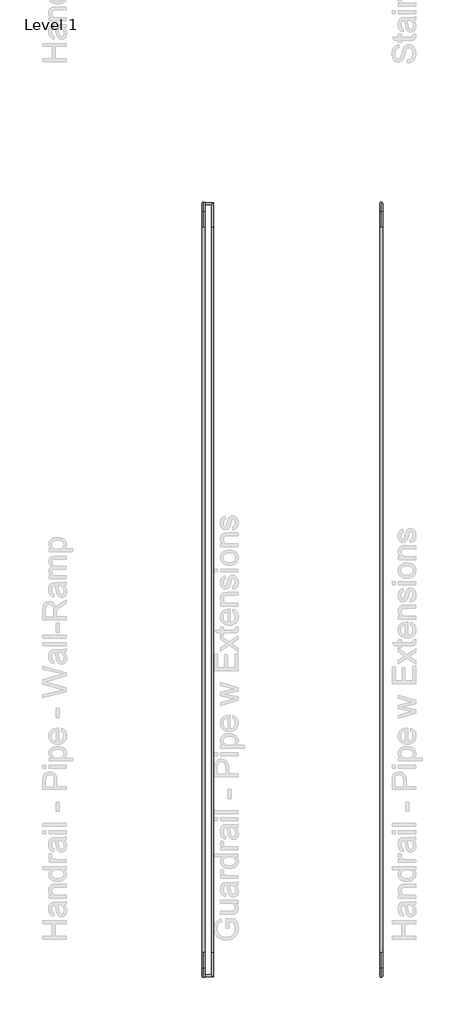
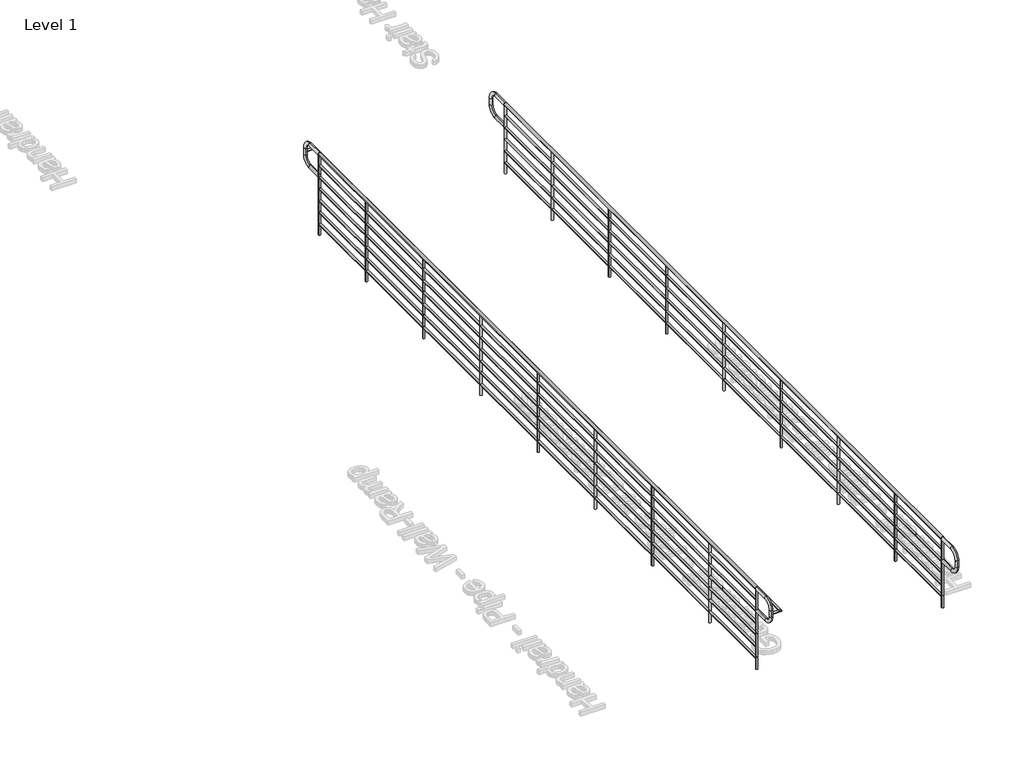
# One storey, part 5 of 14: 2 railings.
"""IFC4 building model written with IfcOpenShell, lengths in millimetres."""

from ifc_helpers import new_model, si_unit, point, frame, frame_2d, origin, origin_with_axes, place, context, project, spatial, circle_curve, ellipse_curve, trimmed, segment, composite_curve, outline, extrude, element, save
from ifc_brep_helpers import plane_surface, cylinder_surface, revolved_surface, advanced_brep

model = new_model("IFC4")

# Units and contexts
model_context = context("Model", 3, world=origin())
ifc_project = project(units=[si_unit("LENGTHUNIT", "METRE", prefix="MILLI")], contexts=[model_context])

# Site, building, storey
site = spatial("IfcSite", under=ifc_project)
building = spatial("IfcBuilding", under=site)
storey = spatial("IfcBuildingStorey", under=building, Name="Level 1", Elevation=0.0)

# Railings
placement = place(None, origin())
element("IfcRailing", 1, ObjectType="Guardrail - Pipe w Extensions", at=placement, inside=storey, context=model_context, shape_type="SolidModel", body=[
    advanced_brep(
    [(-3656.5978678, -5345.4143828, 901.7), (-3681.9978678, -5345.4143828, 901.7), (-3681.9978678, -14660.8643828, 901.7), (-3656.5978678, -14660.8643828, 901.7), (-3783.5978678, -5053.3143828, 901.7), (-3783.5978678, -5027.9143828, 901.7), (-3681.9978678, -5053.3143828, 901.7), (-3656.5978678, -5027.9143828, 901.7), (-3681.9978678, -14952.9643828, 901.7), (-3656.5978678, -14978.3643828, 901.7), (-3783.5978678, -14952.9643828, 901.7), (-3783.5978678, -14978.3643828, 901.7)],
    [
        (0, 1, circle_curve(frame((-3669.2978678, -5345.4143828, 901.7), z_axis=(0.0, -1.0, 0.0), x_axis=(1.0, 0.0, 0.0)), 12.7)),
        (1, 2),
        (2, 3, circle_curve(frame((-3669.2978678, -14660.8643828, 901.7), z_axis=(0.0, 1.0, 0.0), x_axis=(1.0, 0.0, 0.0)), 12.7)),
        (3, 0),
        (1, 0, circle_curve(frame((-3669.2978678, -5345.4143828, 901.7), z_axis=(0.0, -1.0, 0.0), x_axis=(1.0, 0.0, 0.0)), 12.7)),
        (3, 2, circle_curve(frame((-3669.2978678, -14660.8643828, 901.7), z_axis=(0.0, 1.0, 0.0), x_axis=(1.0, 0.0, 0.0)), 12.7)),
        (4, 5, circle_curve(frame((-3783.5978678, -5040.6143828, 901.7), z_axis=(-1.0, 0.0, 0.0), x_axis=(0.0, 1.0, 0.0)), 12.7)),
        (5, 4, circle_curve(frame((-3783.5978678, -5040.6143828, 901.7), z_axis=(-1.0, 0.0, 0.0), x_axis=(0.0, 1.0, 0.0)), 12.7)),
        (4, 6),
        (6, 7, ellipse_curve(frame((-3669.2978678, -5040.6143828, 901.7), z_axis=(-0.7071067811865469, 0.7071067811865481, 0.0), x_axis=(-0.7071067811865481, -0.7071067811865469, 0.0)), 17.9605122, 12.7)),
        (7, 5),
        (7, 6, ellipse_curve(frame((-3669.2978678, -5040.6143828, 901.7), z_axis=(-0.7071067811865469, 0.7071067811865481, 0.0), x_axis=(-0.7071067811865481, -0.7071067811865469, 0.0)), 17.9605122, 12.7)),
        (6, 1),
        (0, 7),
        (2, 8),
        (8, 9, ellipse_curve(frame((-3669.2978678, -14965.6643828, 901.7), z_axis=(0.7071067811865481, 0.7071067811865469, 0.0), x_axis=(-0.7071067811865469, 0.7071067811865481, 0.0)), 17.9605122, 12.7)),
        (9, 3),
        (9, 8, ellipse_curve(frame((-3669.2978678, -14965.6643828, 901.7), z_axis=(0.7071067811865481, 0.7071067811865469, 0.0), x_axis=(-0.7071067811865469, 0.7071067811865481, 0.0)), 17.9605122, 12.7)),
        (10, 11, circle_curve(frame((-3783.5978678, -14965.6643828, 901.7), z_axis=(-1.0, 0.0, 0.0), x_axis=(0.0, -1.0, 0.0)), 12.7)),
        (11, 10, circle_curve(frame((-3783.5978678, -14965.6643828, 901.7), z_axis=(-1.0, 0.0, 0.0), x_axis=(0.0, -1.0, 0.0)), 12.7)),
        (8, 10),
        (11, 9),
    ],
    [
        cylinder_surface(frame((-3669.2978678, -5345.4143828, 901.7), z_axis=(0.0, 1.0, 0.0), x_axis=(1.0, 0.0, 0.0)), 12.7),
        plane_surface(frame((-3783.5978678, -5040.6143828, 914.4), z_axis=(-1.0, 0.0, 0.0), x_axis=(0.0, 1.0, 0.0))),
        cylinder_surface(frame((-3783.5978678, -5040.6143828, 901.7), z_axis=(-1.0, 0.0, 0.0), x_axis=(0.0, 1.0, 0.0)), 12.7),
        cylinder_surface(frame((-3669.2978678, -5040.6143828, 901.7), z_axis=(0.0, 1.0, 0.0), x_axis=(1.0, 0.0, 0.0)), 12.7),
        cylinder_surface(frame((-3669.2978678, -14660.8643828, 901.7), z_axis=(0.0, 1.0, 0.0), x_axis=(1.0, 0.0, 0.0)), 12.7),
        plane_surface(frame((-3783.5978678, -14965.6643828, 914.4), z_axis=(-1.0, 0.0, 0.0), x_axis=(0.0, -1.0, 0.0))),
        cylinder_surface(frame((-3669.2978678, -14965.6643828, 901.7), z_axis=(1.0, 0.0, 0.0), x_axis=(0.0, -1.0, 0.0)), 12.7),
    ],
    [
        (0, [[1, 2, 3, 4]]),
        (0, [[5, -4, 6, -2]]),
        (1, [[7, 8]]),
        (2, [[-7, 9, 10, 11]]),
        (2, [[-8, -11, 12, -9]]),
        (3, [[-10, 13, -1, 14]]),
        (3, [[-12, -14, -5, -13]]),
        (4, [[-3, 15, 16, 17]]),
        (4, [[-6, -17, 18, -15]]),
        (5, [[19, 20]]),
        (6, [[-16, 21, -20, 22]]),
        (6, [[-18, -22, -19, -21]]),
    ],
),
    extrude(outline(composite_curve([segment(trimmed(circle_curve(frame_2d((1047.75, -3783.5978678)), 19.05), [point((1047.75, -3802.6478678))], [point((1047.75, -3764.5478678))], False, "CARTESIAN"), True, "CONTINUOUS"), segment(trimmed(circle_curve(frame_2d((1047.75, -3783.5978678)), 19.05), [point((1047.75, -3764.5478678))], [point((1047.75, -3802.6478678))], False, "CARTESIAN"), True, "CONTINUOUS")], self_intersect=False)), frame((0.0, -14660.8643828, 0.0), z_axis=(0.0, 1.0, 0.0), x_axis=(0.0, 0.0, 1.0)), (0.0, 0.0, 1.0), 9315.45),
    extrude(outline(composite_curve([segment(trimmed(circle_curve(frame_2d((901.7, -3783.5978678)), 12.7), [point((901.7, -3770.8978678))], [point((901.7, -3796.2978678))], False, "CARTESIAN"), True, "CONTINUOUS"), segment(trimmed(circle_curve(frame_2d((901.7, -3783.5978678)), 12.7), [point((901.7, -3796.2978678))], [point((901.7, -3770.8978678))], False, "CARTESIAN"), True, "CONTINUOUS")], self_intersect=False)), frame((0.0, -14660.8643828, 0.0), z_axis=(0.0, 1.0, 0.0), x_axis=(0.0, 0.0, 1.0)), (0.0, 0.0, 1.0), 9315.45),
    extrude(outline(composite_curve([segment(trimmed(circle_curve(frame_2d((749.3, -3783.5978678)), 12.7), [point((749.3, -3770.8978678))], [point((749.3, -3796.2978678))], False, "CARTESIAN"), True, "CONTINUOUS"), segment(trimmed(circle_curve(frame_2d((749.3, -3783.5978678)), 12.7), [point((749.3, -3796.2978678))], [point((749.3, -3770.8978678))], False, "CARTESIAN"), True, "CONTINUOUS")], self_intersect=False)), frame((0.0, -14660.8643828, 0.0), z_axis=(0.0, 1.0, 0.0), x_axis=(0.0, 0.0, 1.0)), (0.0, 0.0, 1.0), 9315.45),
    extrude(outline(composite_curve([segment(trimmed(circle_curve(frame_2d((596.9, -3783.5978678)), 12.7), [point((596.9, -3770.8978678))], [point((596.9, -3796.2978678))], False, "CARTESIAN"), True, "CONTINUOUS"), segment(trimmed(circle_curve(frame_2d((596.9, -3783.5978678)), 12.7), [point((596.9, -3796.2978678))], [point((596.9, -3770.8978678))], False, "CARTESIAN"), True, "CONTINUOUS")], self_intersect=False)), frame((0.0, -14660.8643828, 0.0), z_axis=(0.0, 1.0, 0.0), x_axis=(0.0, 0.0, 1.0)), (0.0, 0.0, 1.0), 9315.45),
    extrude(outline(composite_curve([segment(trimmed(circle_curve(frame_2d((444.5, -3783.5978678)), 12.7), [point((444.5, -3770.8978678))], [point((444.5, -3796.2978678))], False, "CARTESIAN"), True, "CONTINUOUS"), segment(trimmed(circle_curve(frame_2d((444.5, -3783.5978678)), 12.7), [point((444.5, -3796.2978678))], [point((444.5, -3770.8978678))], False, "CARTESIAN"), True, "CONTINUOUS")], self_intersect=False)), frame((0.0, -14660.8643828, 0.0), z_axis=(0.0, 1.0, 0.0), x_axis=(0.0, 0.0, 1.0)), (0.0, 0.0, 1.0), 9315.45),
    extrude(outline(composite_curve([segment(trimmed(circle_curve(frame_2d((292.1, -3783.5978678)), 12.7), [point((292.1, -3770.8978678))], [point((292.1, -3796.2978678))], False, "CARTESIAN"), True, "CONTINUOUS"), segment(trimmed(circle_curve(frame_2d((292.1, -3783.5978678)), 12.7), [point((292.1, -3796.2978678))], [point((292.1, -3770.8978678))], False, "CARTESIAN"), True, "CONTINUOUS")], self_intersect=False)), frame((0.0, -14660.8643828, 0.0), z_axis=(0.0, 1.0, 0.0), x_axis=(0.0, 0.0, 1.0)), (0.0, 0.0, 1.0), 9315.45),
    extrude(outline(composite_curve([segment(trimmed(circle_curve(frame_2d((139.7, -3783.5978678)), 12.7), [point((139.7, -3770.8978678))], [point((139.7, -3796.2978678))], False, "CARTESIAN"), True, "CONTINUOUS"), segment(trimmed(circle_curve(frame_2d((139.7, -3783.5978678)), 12.7), [point((139.7, -3796.2978678))], [point((139.7, -3770.8978678))], False, "CARTESIAN"), True, "CONTINUOUS")], self_intersect=False)), frame((0.0, -14660.8643828, 0.0), z_axis=(0.0, 1.0, 0.0), x_axis=(0.0, 0.0, 1.0)), (0.0, 0.0, 1.0), 9315.45),
    extrude(outline(composite_curve([segment(trimmed(circle_curve(frame_2d((-3783.5978678, -13660.7393828)), 12.7), [point((-3770.8978678, -13660.7393828))], [point((-3796.2978678, -13660.7393828))], False, "CARTESIAN"), True, "CONTINUOUS"), segment(trimmed(circle_curve(frame_2d((-3783.5978678, -13660.7393828)), 12.7), [point((-3796.2978678, -13660.7393828))], [point((-3770.8978678, -13660.7393828))], False, "CARTESIAN"), True, "CONTINUOUS")], self_intersect=False)), origin_with_axes(), (0.0, 0.0, 1.0), 1028.7),
    extrude(outline(composite_curve([segment(trimmed(circle_curve(frame_2d((-3783.5978678, -12441.5393828)), 12.7), [point((-3770.8978678, -12441.5393828))], [point((-3796.2978678, -12441.5393828))], False, "CARTESIAN"), True, "CONTINUOUS"), segment(trimmed(circle_curve(frame_2d((-3783.5978678, -12441.5393828)), 12.7), [point((-3796.2978678, -12441.5393828))], [point((-3770.8978678, -12441.5393828))], False, "CARTESIAN"), True, "CONTINUOUS")], self_intersect=False)), origin_with_axes(), (0.0, 0.0, 1.0), 1028.7),
    extrude(outline(composite_curve([segment(trimmed(circle_curve(frame_2d((-3783.5978678, -11222.3393828)), 12.7), [point((-3770.8978678, -11222.3393828))], [point((-3796.2978678, -11222.3393828))], False, "CARTESIAN"), True, "CONTINUOUS"), segment(trimmed(circle_curve(frame_2d((-3783.5978678, -11222.3393828)), 12.7), [point((-3796.2978678, -11222.3393828))], [point((-3770.8978678, -11222.3393828))], False, "CARTESIAN"), True, "CONTINUOUS")], self_intersect=False)), origin_with_axes(), (0.0, 0.0, 1.0), 1028.7),
    extrude(outline(composite_curve([segment(trimmed(circle_curve(frame_2d((-3783.5978678, -10003.1393828)), 12.7), [point((-3770.8978678, -10003.1393828))], [point((-3796.2978678, -10003.1393828))], False, "CARTESIAN"), True, "CONTINUOUS"), segment(trimmed(circle_curve(frame_2d((-3783.5978678, -10003.1393828)), 12.7), [point((-3796.2978678, -10003.1393828))], [point((-3770.8978678, -10003.1393828))], False, "CARTESIAN"), True, "CONTINUOUS")], self_intersect=False)), origin_with_axes(), (0.0, 0.0, 1.0), 1028.7),
    extrude(outline(composite_curve([segment(trimmed(circle_curve(frame_2d((-3783.5978678, -8783.9393828)), 12.7), [point((-3770.8978678, -8783.9393828))], [point((-3796.2978678, -8783.9393828))], False, "CARTESIAN"), True, "CONTINUOUS"), segment(trimmed(circle_curve(frame_2d((-3783.5978678, -8783.9393828)), 12.7), [point((-3796.2978678, -8783.9393828))], [point((-3770.8978678, -8783.9393828))], False, "CARTESIAN"), True, "CONTINUOUS")], self_intersect=False)), origin_with_axes(), (0.0, 0.0, 1.0), 1028.7),
    extrude(outline(composite_curve([segment(trimmed(circle_curve(frame_2d((-3783.5978678, -7564.7393828)), 12.7), [point((-3770.8978678, -7564.7393828))], [point((-3796.2978678, -7564.7393828))], False, "CARTESIAN"), True, "CONTINUOUS"), segment(trimmed(circle_curve(frame_2d((-3783.5978678, -7564.7393828)), 12.7), [point((-3796.2978678, -7564.7393828))], [point((-3770.8978678, -7564.7393828))], False, "CARTESIAN"), True, "CONTINUOUS")], self_intersect=False)), origin_with_axes(), (0.0, 0.0, 1.0), 1028.7),
    extrude(outline(composite_curve([segment(trimmed(circle_curve(frame_2d((-3783.5978678, -6345.5393828)), 12.7), [point((-3770.8978678, -6345.5393828))], [point((-3796.2978678, -6345.5393828))], False, "CARTESIAN"), True, "CONTINUOUS"), segment(trimmed(circle_curve(frame_2d((-3783.5978678, -6345.5393828)), 12.7), [point((-3796.2978678, -6345.5393828))], [point((-3770.8978678, -6345.5393828))], False, "CARTESIAN"), True, "CONTINUOUS")], self_intersect=False)), origin_with_axes(), (0.0, 0.0, 1.0), 1028.7),
    advanced_brep(
    [(-3783.5978678, -14673.5643828, 781.05), (-3783.5978678, -14673.5643828, 742.95), (-3783.5978678, -14864.0643828, 781.05), (-3783.5978678, -14864.0643828, 742.95), (-3783.5978678, -14984.7143828, 863.6), (-3783.5978678, -14946.6143828, 863.6), (-3783.5978678, -14946.6143828, 946.15), (-3783.5978678, -14984.7143828, 946.15), (-3783.5978678, -14864.0643828, 1066.8), (-3783.5978678, -14864.0643828, 1028.7), (-3783.5978678, -14660.8643828, 1028.7), (-3783.5978678, -14660.8643828, 1066.8)],
    [
        (0, 1, circle_curve(frame((-3783.5978678, -14673.5643828, 762.0), z_axis=(0.0, 1.0, 0.0), x_axis=(0.0, 0.0, -1.0)), 19.05)),
        (1, 0, circle_curve(frame((-3783.5978678, -14673.5643828, 762.0), z_axis=(0.0, 1.0, 0.0), x_axis=(0.0, 0.0, -1.0)), 19.05)),
        (0, 2),
        (2, 3, circle_curve(frame((-3783.5978678, -14864.0643828, 762.0), z_axis=(0.0, 1.0, 0.0), x_axis=(0.0, 0.0, -1.0)), 19.05)),
        (3, 1),
        (3, 2, circle_curve(frame((-3783.5978678, -14864.0643828, 762.0), z_axis=(0.0, 1.0, 0.0), x_axis=(0.0, 0.0, -1.0)), 19.05)),
        (4, 3, circle_curve(frame((-3783.5978678, -14864.0643828, 863.6), z_axis=(1.0, 0.0, 0.0), x_axis=(0.0, 0.0, -1.0)), 120.65)),
        (2, 5, circle_curve(frame((-3783.5978678, -14864.0643828, 863.6), z_axis=(-1.0, 0.0, 0.0), x_axis=(0.0, 0.0, -1.0)), 82.55)),
        (5, 4, circle_curve(frame((-3783.5978678, -14965.6643828, 863.6), z_axis=(0.0, 0.0, -1.0), x_axis=(0.0, -1.0, 0.0)), 19.05)),
        (4, 5, circle_curve(frame((-3783.5978678, -14965.6643828, 863.6), z_axis=(0.0, 0.0, -1.0), x_axis=(0.0, -1.0, 0.0)), 19.05)),
        (5, 6),
        (6, 7, circle_curve(frame((-3783.5978678, -14965.6643828, 946.15), z_axis=(0.0, 0.0, -1.0), x_axis=(0.0, -1.0, 0.0)), 19.05)),
        (7, 4),
        (7, 6, circle_curve(frame((-3783.5978678, -14965.6643828, 946.15), z_axis=(0.0, 0.0, -1.0), x_axis=(0.0, -1.0, 0.0)), 19.05)),
        (8, 7, circle_curve(frame((-3783.5978678, -14864.0643828, 946.15), z_axis=(1.0, 0.0, 0.0), x_axis=(0.0, -1.0, 0.0)), 120.65)),
        (6, 9, circle_curve(frame((-3783.5978678, -14864.0643828, 946.15), z_axis=(-1.0, 0.0, 0.0), x_axis=(0.0, -1.0, 0.0)), 82.55)),
        (9, 8, circle_curve(frame((-3783.5978678, -14864.0643828, 1047.75), z_axis=(0.0, -1.0, 0.0), x_axis=(0.0, 0.0, 1.0)), 19.05)),
        (8, 9, circle_curve(frame((-3783.5978678, -14864.0643828, 1047.75), z_axis=(0.0, -1.0, 0.0), x_axis=(0.0, 0.0, 1.0)), 19.05)),
        (10, 11, circle_curve(frame((-3783.5978678, -14660.8643828, 1047.75), z_axis=(0.0, 1.0, 0.0), x_axis=(0.0, 0.0, 1.0)), 19.05)),
        (11, 10, circle_curve(frame((-3783.5978678, -14660.8643828, 1047.75), z_axis=(0.0, 1.0, 0.0), x_axis=(0.0, 0.0, 1.0)), 19.05)),
        (9, 10),
        (11, 8),
    ],
    [
        plane_surface(frame((-3802.6478678, -14673.5643828, 762.0), z_axis=(0.0, 1.0, 0.0), x_axis=(0.0, 0.0, -1.0))),
        cylinder_surface(frame((-3783.5978678, -14673.5643828, 762.0), z_axis=(0.0, 1.0, 0.0), x_axis=(0.0, 0.0, -1.0)), 19.05),
        revolved_surface(trimmed(ellipse_curve(frame((-3783.5978678, -14864.0643828, 762.0), z_axis=(0.0, 1.0, 0.0), x_axis=(0.0, 0.0, -1.0)), 19.05, 19.05), [point((-3783.5978678, -14864.0643828, 781.05))], [point((-3783.5978678, -14864.0643828, 742.95))], True, "CARTESIAN"), (-3783.5978678, -14864.0643828, 863.6), (-1.0, 0.0, 0.0)),
        revolved_surface(trimmed(ellipse_curve(frame((-3783.5978678, -14864.0643828, 762.0), z_axis=(0.0, 1.0, 0.0), x_axis=(0.0, 0.0, -1.0)), 19.05, 19.05), [point((-3783.5978678, -14864.0643828, 742.95))], [point((-3783.5978678, -14864.0643828, 781.05))], True, "CARTESIAN"), (-3783.5978678, -14864.0643828, 863.6), (-1.0, 0.0, 0.0)),
        cylinder_surface(frame((-3783.5978678, -14965.6643828, 863.6), z_axis=(0.0, 0.0, -1.0), x_axis=(0.0, -1.0, 0.0)), 19.05),
        revolved_surface(trimmed(ellipse_curve(frame((-3783.5978678, -14965.6643828, 946.15), z_axis=(0.0, 0.0, -1.0), x_axis=(0.0, -1.0, 0.0)), 19.05, 19.05), [point((-3783.5978678, -14946.6143828, 946.15))], [point((-3783.5978678, -14984.7143828, 946.15))], True, "CARTESIAN"), (-3783.5978678, -14864.0643828, 946.15), (-1.0, 0.0, 0.0)),
        revolved_surface(trimmed(ellipse_curve(frame((-3783.5978678, -14965.6643828, 946.15), z_axis=(0.0, 0.0, -1.0), x_axis=(0.0, -1.0, 0.0)), 19.05, 19.05), [point((-3783.5978678, -14984.7143828, 946.15))], [point((-3783.5978678, -14946.6143828, 946.15))], True, "CARTESIAN"), (-3783.5978678, -14864.0643828, 946.15), (-1.0, 0.0, 0.0)),
        plane_surface(frame((-3802.6478678, -14660.8643828, 1047.75), z_axis=(0.0, 1.0, 0.0), x_axis=(0.0, 0.0, 1.0))),
        cylinder_surface(frame((-3783.5978678, -14864.0643828, 1047.75), z_axis=(0.0, -1.0, 0.0), x_axis=(0.0, 0.0, 1.0)), 19.05),
    ],
    [
        (0, [[1, 2]]),
        (1, [[-1, 3, 4, 5]]),
        (1, [[-2, -5, 6, -3]]),
        (2, [[7, -4, 8, 9]]),
        (3, [[-8, -6, -7, 10]]),
        (4, [[-9, 11, 12, 13]]),
        (4, [[-10, -13, 14, -11]]),
        (5, [[15, -12, 16, 17]]),
        (6, [[-16, -14, -15, 18]]),
        (7, [[19, 20]]),
        (8, [[-17, 21, -20, 22]]),
        (8, [[-18, -22, -19, -21]]),
    ],
),
    extrude(outline(composite_curve([segment(trimmed(circle_curve(frame_2d((-3783.5978678, -14660.8643828)), 12.7), [point((-3796.2978678, -14660.8643828))], [point((-3770.8978678, -14660.8643828))], False, "CARTESIAN"), True, "CONTINUOUS"), segment(trimmed(circle_curve(frame_2d((-3783.5978678, -14660.8643828)), 12.7), [point((-3770.8978678, -14660.8643828))], [point((-3796.2978678, -14660.8643828))], False, "CARTESIAN"), True, "CONTINUOUS")], self_intersect=False)), origin_with_axes(), (0.0, 0.0, 1.0), 1028.7),
    advanced_brep(
    [(-3783.5978678, -5345.4143828, 1028.7), (-3783.5978678, -5345.4143828, 1066.8), (-3783.5978678, -5142.2143828, 1028.7), (-3783.5978678, -5142.2143828, 1066.8), (-3783.5978678, -5021.5643828, 946.15), (-3783.5978678, -5059.6643828, 946.15), (-3783.5978678, -5059.6643828, 863.6), (-3783.5978678, -5021.5643828, 863.6), (-3783.5978678, -5142.2143828, 742.95), (-3783.5978678, -5142.2143828, 781.05), (-3783.5978678, -5332.7143828, 781.05), (-3783.5978678, -5332.7143828, 742.95)],
    [
        (0, 1, circle_curve(frame((-3783.5978678, -5345.4143828, 1047.75), z_axis=(0.0, -1.0, 0.0), x_axis=(0.0, 0.0, 1.0)), 19.05)),
        (1, 0, circle_curve(frame((-3783.5978678, -5345.4143828, 1047.75), z_axis=(0.0, -1.0, 0.0), x_axis=(0.0, 0.0, 1.0)), 19.05)),
        (0, 2),
        (2, 3, circle_curve(frame((-3783.5978678, -5142.2143828, 1047.75), z_axis=(0.0, -1.0, 0.0), x_axis=(0.0, 0.0, 1.0)), 19.05)),
        (3, 1),
        (3, 2, circle_curve(frame((-3783.5978678, -5142.2143828, 1047.75), z_axis=(0.0, -1.0, 0.0), x_axis=(0.0, 0.0, 1.0)), 19.05)),
        (4, 3, circle_curve(frame((-3783.5978678, -5142.2143828, 946.15), z_axis=(1.0, 0.0, 0.0), x_axis=(0.0, 0.0, 1.0)), 120.65)),
        (2, 5, circle_curve(frame((-3783.5978678, -5142.2143828, 946.15), z_axis=(-1.0, 0.0, 0.0), x_axis=(0.0, 0.0, 1.0)), 82.55)),
        (5, 4, circle_curve(frame((-3783.5978678, -5040.6143828, 946.15), z_axis=(0.0, 0.0, 1.0), x_axis=(0.0, 1.0, 0.0)), 19.05)),
        (4, 5, circle_curve(frame((-3783.5978678, -5040.6143828, 946.15), z_axis=(0.0, 0.0, 1.0), x_axis=(0.0, 1.0, 0.0)), 19.05)),
        (5, 6),
        (6, 7, circle_curve(frame((-3783.5978678, -5040.6143828, 863.6), z_axis=(0.0, 0.0, 1.0), x_axis=(0.0, 1.0, 0.0)), 19.05)),
        (7, 4),
        (7, 6, circle_curve(frame((-3783.5978678, -5040.6143828, 863.6), z_axis=(0.0, 0.0, 1.0), x_axis=(0.0, 1.0, 0.0)), 19.05)),
        (8, 7, circle_curve(frame((-3783.5978678, -5142.2143828, 863.6), z_axis=(1.0, 0.0, 0.0), x_axis=(0.0, 1.0, 0.0)), 120.65)),
        (6, 9, circle_curve(frame((-3783.5978678, -5142.2143828, 863.6), z_axis=(-1.0, 0.0, 0.0), x_axis=(0.0, 1.0, 0.0)), 82.55)),
        (9, 8, circle_curve(frame((-3783.5978678, -5142.2143828, 762.0), z_axis=(0.0, 1.0, 0.0), x_axis=(0.0, 0.0, -1.0)), 19.05)),
        (8, 9, circle_curve(frame((-3783.5978678, -5142.2143828, 762.0), z_axis=(0.0, 1.0, 0.0), x_axis=(0.0, 0.0, -1.0)), 19.05)),
        (10, 11, circle_curve(frame((-3783.5978678, -5332.7143828, 762.0), z_axis=(0.0, -1.0, 0.0), x_axis=(0.0, 0.0, -1.0)), 19.05)),
        (11, 10, circle_curve(frame((-3783.5978678, -5332.7143828, 762.0), z_axis=(0.0, -1.0, 0.0), x_axis=(0.0, 0.0, -1.0)), 19.05)),
        (9, 10),
        (11, 8),
    ],
    [
        plane_surface(frame((-3802.6478678, -5345.4143828, 1047.75), z_axis=(0.0, -1.0, 0.0), x_axis=(0.0, 0.0, 1.0))),
        cylinder_surface(frame((-3783.5978678, -5345.4143828, 1047.75), z_axis=(0.0, -1.0, 0.0), x_axis=(0.0, 0.0, 1.0)), 19.05),
        revolved_surface(trimmed(ellipse_curve(frame((-3783.5978678, -5142.2143828, 1047.75), z_axis=(0.0, -1.0, 0.0), x_axis=(0.0, 0.0, 1.0)), 19.05, 19.05), [point((-3783.5978678, -5142.2143828, 1028.7))], [point((-3783.5978678, -5142.2143828, 1066.8))], True, "CARTESIAN"), (-3783.5978678, -5142.2143828, 946.15), (-1.0, 0.0, 0.0)),
        revolved_surface(trimmed(ellipse_curve(frame((-3783.5978678, -5142.2143828, 1047.75), z_axis=(0.0, -1.0, 0.0), x_axis=(0.0, 0.0, 1.0)), 19.05, 19.05), [point((-3783.5978678, -5142.2143828, 1066.8))], [point((-3783.5978678, -5142.2143828, 1028.7))], True, "CARTESIAN"), (-3783.5978678, -5142.2143828, 946.15), (-1.0, 0.0, 0.0)),
        cylinder_surface(frame((-3783.5978678, -5040.6143828, 946.15), z_axis=(0.0, 0.0, 1.0), x_axis=(0.0, 1.0, 0.0)), 19.05),
        revolved_surface(trimmed(ellipse_curve(frame((-3783.5978678, -5040.6143828, 863.6), z_axis=(0.0, 0.0, 1.0), x_axis=(0.0, 1.0, 0.0)), 19.05, 19.05), [point((-3783.5978678, -5059.6643828, 863.6))], [point((-3783.5978678, -5021.5643828, 863.6))], True, "CARTESIAN"), (-3783.5978678, -5142.2143828, 863.6), (-1.0, 0.0, 0.0)),
        revolved_surface(trimmed(ellipse_curve(frame((-3783.5978678, -5040.6143828, 863.6), z_axis=(0.0, 0.0, 1.0), x_axis=(0.0, 1.0, 0.0)), 19.05, 19.05), [point((-3783.5978678, -5021.5643828, 863.6))], [point((-3783.5978678, -5059.6643828, 863.6))], True, "CARTESIAN"), (-3783.5978678, -5142.2143828, 863.6), (-1.0, 0.0, 0.0)),
        plane_surface(frame((-3802.6478678, -5332.7143828, 762.0), z_axis=(0.0, -1.0, 0.0), x_axis=(0.0, 0.0, -1.0))),
        cylinder_surface(frame((-3783.5978678, -5142.2143828, 762.0), z_axis=(0.0, 1.0, 0.0), x_axis=(0.0, 0.0, -1.0)), 19.05),
    ],
    [
        (0, [[1, 2]]),
        (1, [[-1, 3, 4, 5]]),
        (1, [[-2, -5, 6, -3]]),
        (2, [[7, -4, 8, 9]]),
        (3, [[-8, -6, -7, 10]]),
        (4, [[-9, 11, 12, 13]]),
        (4, [[-10, -13, 14, -11]]),
        (5, [[15, -12, 16, 17]]),
        (6, [[-16, -14, -15, 18]]),
        (7, [[19, 20]]),
        (8, [[-17, 21, -20, 22]]),
        (8, [[-18, -22, -19, -21]]),
    ],
),
    extrude(outline(composite_curve([segment(trimmed(circle_curve(frame_2d((-3783.5978678, -5345.4143828)), 12.7), [point((-3796.2978678, -5345.4143828))], [point((-3770.8978678, -5345.4143828))], False, "CARTESIAN"), True, "CONTINUOUS"), segment(trimmed(circle_curve(frame_2d((-3783.5978678, -5345.4143828)), 12.7), [point((-3770.8978678, -5345.4143828))], [point((-3796.2978678, -5345.4143828))], False, "CARTESIAN"), True, "CONTINUOUS")], self_intersect=False)), origin_with_axes(), (0.0, 0.0, 1.0), 1028.7),
])
element("IfcRailing", 2, ObjectType="Handrail - Pipe w Extensions", at=placement, inside=storey, context=model_context, shape_type="SolidModel", body=[
    extrude(outline(composite_curve([segment(trimmed(circle_curve(frame_2d((895.35, -1497.5978678)), 19.05), [point((895.35, -1516.6478678))], [point((895.35, -1478.5478678))], False, "CARTESIAN"), True, "CONTINUOUS"), segment(trimmed(circle_curve(frame_2d((895.35, -1497.5978678)), 19.05), [point((895.35, -1478.5478678))], [point((895.35, -1516.6478678))], False, "CARTESIAN"), True, "CONTINUOUS")], self_intersect=False)), frame((0.0, -14660.8643828, 0.0), z_axis=(0.0, 1.0, 0.0), x_axis=(0.0, 0.0, 1.0)), (0.0, 0.0, 1.0), 9315.45),
    extrude(outline(composite_curve([segment(trimmed(circle_curve(frame_2d((749.3, -1497.5978678)), 12.7), [point((749.3, -1484.8978678))], [point((749.3, -1510.2978678))], False, "CARTESIAN"), True, "CONTINUOUS"), segment(trimmed(circle_curve(frame_2d((749.3, -1497.5978678)), 12.7), [point((749.3, -1510.2978678))], [point((749.3, -1484.8978678))], False, "CARTESIAN"), True, "CONTINUOUS")], self_intersect=False)), frame((0.0, -14660.8643828, 0.0), z_axis=(0.0, 1.0, 0.0), x_axis=(0.0, 0.0, 1.0)), (0.0, 0.0, 1.0), 9315.45),
    extrude(outline(composite_curve([segment(trimmed(circle_curve(frame_2d((596.9, -1497.5978678)), 12.7), [point((596.9, -1484.8978678))], [point((596.9, -1510.2978678))], False, "CARTESIAN"), True, "CONTINUOUS"), segment(trimmed(circle_curve(frame_2d((596.9, -1497.5978678)), 12.7), [point((596.9, -1510.2978678))], [point((596.9, -1484.8978678))], False, "CARTESIAN"), True, "CONTINUOUS")], self_intersect=False)), frame((0.0, -14660.8643828, 0.0), z_axis=(0.0, 1.0, 0.0), x_axis=(0.0, 0.0, 1.0)), (0.0, 0.0, 1.0), 9315.45),
    extrude(outline(composite_curve([segment(trimmed(circle_curve(frame_2d((444.5, -1497.5978678)), 12.7), [point((444.5, -1484.8978678))], [point((444.5, -1510.2978678))], False, "CARTESIAN"), True, "CONTINUOUS"), segment(trimmed(circle_curve(frame_2d((444.5, -1497.5978678)), 12.7), [point((444.5, -1510.2978678))], [point((444.5, -1484.8978678))], False, "CARTESIAN"), True, "CONTINUOUS")], self_intersect=False)), frame((0.0, -14660.8643828, 0.0), z_axis=(0.0, 1.0, 0.0), x_axis=(0.0, 0.0, 1.0)), (0.0, 0.0, 1.0), 9315.45),
    extrude(outline(composite_curve([segment(trimmed(circle_curve(frame_2d((292.1, -1497.5978678)), 12.7), [point((292.1, -1484.8978678))], [point((292.1, -1510.2978678))], False, "CARTESIAN"), True, "CONTINUOUS"), segment(trimmed(circle_curve(frame_2d((292.1, -1497.5978678)), 12.7), [point((292.1, -1510.2978678))], [point((292.1, -1484.8978678))], False, "CARTESIAN"), True, "CONTINUOUS")], self_intersect=False)), frame((0.0, -14660.8643828, 0.0), z_axis=(0.0, 1.0, 0.0), x_axis=(0.0, 0.0, 1.0)), (0.0, 0.0, 1.0), 9315.45),
    extrude(outline(composite_curve([segment(trimmed(circle_curve(frame_2d((139.7, -1497.5978678)), 12.7), [point((139.7, -1484.8978678))], [point((139.7, -1510.2978678))], False, "CARTESIAN"), True, "CONTINUOUS"), segment(trimmed(circle_curve(frame_2d((139.7, -1497.5978678)), 12.7), [point((139.7, -1510.2978678))], [point((139.7, -1484.8978678))], False, "CARTESIAN"), True, "CONTINUOUS")], self_intersect=False)), frame((0.0, -14660.8643828, 0.0), z_axis=(0.0, 1.0, 0.0), x_axis=(0.0, 0.0, 1.0)), (0.0, 0.0, 1.0), 9315.45),
    extrude(outline(composite_curve([segment(trimmed(circle_curve(frame_2d((-1497.5978678, -13660.7393828)), 12.7), [point((-1484.8978678, -13660.7393828))], [point((-1510.2978678, -13660.7393828))], False, "CARTESIAN"), True, "CONTINUOUS"), segment(trimmed(circle_curve(frame_2d((-1497.5978678, -13660.7393828)), 12.7), [point((-1510.2978678, -13660.7393828))], [point((-1484.8978678, -13660.7393828))], False, "CARTESIAN"), True, "CONTINUOUS")], self_intersect=False)), origin_with_axes(), (0.0, 0.0, 1.0), 876.3),
    extrude(outline(composite_curve([segment(trimmed(circle_curve(frame_2d((-1497.5978678, -12441.5393828)), 12.7), [point((-1484.8978678, -12441.5393828))], [point((-1510.2978678, -12441.5393828))], False, "CARTESIAN"), True, "CONTINUOUS"), segment(trimmed(circle_curve(frame_2d((-1497.5978678, -12441.5393828)), 12.7), [point((-1510.2978678, -12441.5393828))], [point((-1484.8978678, -12441.5393828))], False, "CARTESIAN"), True, "CONTINUOUS")], self_intersect=False)), origin_with_axes(), (0.0, 0.0, 1.0), 876.3),
    extrude(outline(composite_curve([segment(trimmed(circle_curve(frame_2d((-1497.5978678, -11222.3393828)), 12.7), [point((-1484.8978678, -11222.3393828))], [point((-1510.2978678, -11222.3393828))], False, "CARTESIAN"), True, "CONTINUOUS"), segment(trimmed(circle_curve(frame_2d((-1497.5978678, -11222.3393828)), 12.7), [point((-1510.2978678, -11222.3393828))], [point((-1484.8978678, -11222.3393828))], False, "CARTESIAN"), True, "CONTINUOUS")], self_intersect=False)), origin_with_axes(), (0.0, 0.0, 1.0), 876.3),
    extrude(outline(composite_curve([segment(trimmed(circle_curve(frame_2d((-1497.5978678, -10003.1393828)), 12.7), [point((-1484.8978678, -10003.1393828))], [point((-1510.2978678, -10003.1393828))], False, "CARTESIAN"), True, "CONTINUOUS"), segment(trimmed(circle_curve(frame_2d((-1497.5978678, -10003.1393828)), 12.7), [point((-1510.2978678, -10003.1393828))], [point((-1484.8978678, -10003.1393828))], False, "CARTESIAN"), True, "CONTINUOUS")], self_intersect=False)), origin_with_axes(), (0.0, 0.0, 1.0), 876.3),
    extrude(outline(composite_curve([segment(trimmed(circle_curve(frame_2d((-1497.5978678, -8783.9393828)), 12.7), [point((-1484.8978678, -8783.9393828))], [point((-1510.2978678, -8783.9393828))], False, "CARTESIAN"), True, "CONTINUOUS"), segment(trimmed(circle_curve(frame_2d((-1497.5978678, -8783.9393828)), 12.7), [point((-1510.2978678, -8783.9393828))], [point((-1484.8978678, -8783.9393828))], False, "CARTESIAN"), True, "CONTINUOUS")], self_intersect=False)), origin_with_axes(), (0.0, 0.0, 1.0), 876.3),
    extrude(outline(composite_curve([segment(trimmed(circle_curve(frame_2d((-1497.5978678, -7564.7393828)), 12.7), [point((-1484.8978678, -7564.7393828))], [point((-1510.2978678, -7564.7393828))], False, "CARTESIAN"), True, "CONTINUOUS"), segment(trimmed(circle_curve(frame_2d((-1497.5978678, -7564.7393828)), 12.7), [point((-1510.2978678, -7564.7393828))], [point((-1484.8978678, -7564.7393828))], False, "CARTESIAN"), True, "CONTINUOUS")], self_intersect=False)), origin_with_axes(), (0.0, 0.0, 1.0), 876.3),
    extrude(outline(composite_curve([segment(trimmed(circle_curve(frame_2d((-1497.5978678, -6345.5393828)), 12.7), [point((-1484.8978678, -6345.5393828))], [point((-1510.2978678, -6345.5393828))], False, "CARTESIAN"), True, "CONTINUOUS"), segment(trimmed(circle_curve(frame_2d((-1497.5978678, -6345.5393828)), 12.7), [point((-1510.2978678, -6345.5393828))], [point((-1484.8978678, -6345.5393828))], False, "CARTESIAN"), True, "CONTINUOUS")], self_intersect=False)), origin_with_axes(), (0.0, 0.0, 1.0), 876.3),
    advanced_brep(
    [(-1497.5978678, -14673.5643828, 628.65), (-1497.5978678, -14673.5643828, 590.55), (-1497.5978678, -14864.0643828, 628.65), (-1497.5978678, -14864.0643828, 590.55), (-1497.5978678, -14984.7143828, 711.2), (-1497.5978678, -14946.6143828, 711.2), (-1497.5978678, -14946.6143828, 793.75), (-1497.5978678, -14984.7143828, 793.75), (-1497.5978678, -14864.0643828, 914.4), (-1497.5978678, -14864.0643828, 876.3), (-1497.5978678, -14660.8643828, 876.3), (-1497.5978678, -14660.8643828, 914.4)],
    [
        (0, 1, circle_curve(frame((-1497.5978678, -14673.5643828, 609.6), z_axis=(0.0, 1.0, 0.0), x_axis=(0.0, 0.0, -1.0)), 19.05)),
        (1, 0, circle_curve(frame((-1497.5978678, -14673.5643828, 609.6), z_axis=(0.0, 1.0, 0.0), x_axis=(0.0, 0.0, -1.0)), 19.05)),
        (0, 2),
        (2, 3, circle_curve(frame((-1497.5978678, -14864.0643828, 609.6), z_axis=(0.0, 1.0, 0.0), x_axis=(0.0, 0.0, -1.0)), 19.05)),
        (3, 1),
        (3, 2, circle_curve(frame((-1497.5978678, -14864.0643828, 609.6), z_axis=(0.0, 1.0, 0.0), x_axis=(0.0, 0.0, -1.0)), 19.05)),
        (4, 3, circle_curve(frame((-1497.5978678, -14864.0643828, 711.2), z_axis=(1.0, 0.0, 0.0), x_axis=(0.0, 0.0, -1.0)), 120.65)),
        (2, 5, circle_curve(frame((-1497.5978678, -14864.0643828, 711.2), z_axis=(-1.0, 0.0, 0.0), x_axis=(0.0, 0.0, -1.0)), 82.55)),
        (5, 4, circle_curve(frame((-1497.5978678, -14965.6643828, 711.2), z_axis=(0.0, 0.0, -1.0), x_axis=(0.0, -1.0, 0.0)), 19.05)),
        (4, 5, circle_curve(frame((-1497.5978678, -14965.6643828, 711.2), z_axis=(0.0, 0.0, -1.0), x_axis=(0.0, -1.0, 0.0)), 19.05)),
        (5, 6),
        (6, 7, circle_curve(frame((-1497.5978678, -14965.6643828, 793.75), z_axis=(0.0, 0.0, -1.0), x_axis=(0.0, -1.0, 0.0)), 19.05)),
        (7, 4),
        (7, 6, circle_curve(frame((-1497.5978678, -14965.6643828, 793.75), z_axis=(0.0, 0.0, -1.0), x_axis=(0.0, -1.0, 0.0)), 19.05)),
        (8, 7, circle_curve(frame((-1497.5978678, -14864.0643828, 793.75), z_axis=(1.0, 0.0, 0.0), x_axis=(0.0, -1.0, 0.0)), 120.65)),
        (6, 9, circle_curve(frame((-1497.5978678, -14864.0643828, 793.75), z_axis=(-1.0, 0.0, 0.0), x_axis=(0.0, -1.0, 0.0)), 82.55)),
        (9, 8, circle_curve(frame((-1497.5978678, -14864.0643828, 895.35), z_axis=(0.0, -1.0, 0.0), x_axis=(0.0, 0.0, 1.0)), 19.05)),
        (8, 9, circle_curve(frame((-1497.5978678, -14864.0643828, 895.35), z_axis=(0.0, -1.0, 0.0), x_axis=(0.0, 0.0, 1.0)), 19.05)),
        (10, 11, circle_curve(frame((-1497.5978678, -14660.8643828, 895.35), z_axis=(0.0, 1.0, 0.0), x_axis=(0.0, 0.0, 1.0)), 19.05)),
        (11, 10, circle_curve(frame((-1497.5978678, -14660.8643828, 895.35), z_axis=(0.0, 1.0, 0.0), x_axis=(0.0, 0.0, 1.0)), 19.05)),
        (9, 10),
        (11, 8),
    ],
    [
        plane_surface(frame((-1516.6478678, -14673.5643828, 609.6), z_axis=(0.0, 1.0, 0.0), x_axis=(0.0, 0.0, -1.0))),
        cylinder_surface(frame((-1497.5978678, -14673.5643828, 609.6), z_axis=(0.0, 1.0, 0.0), x_axis=(0.0, 0.0, -1.0)), 19.05),
        revolved_surface(trimmed(ellipse_curve(frame((-1497.5978678, -14864.0643828, 609.6), z_axis=(0.0, 1.0, 0.0), x_axis=(0.0, 0.0, -1.0)), 19.05, 19.05), [point((-1497.5978678, -14864.0643828, 628.65))], [point((-1497.5978678, -14864.0643828, 590.55))], True, "CARTESIAN"), (-1497.5978678, -14864.0643828, 711.2), (-1.0, 0.0, 0.0)),
        revolved_surface(trimmed(ellipse_curve(frame((-1497.5978678, -14864.0643828, 609.6), z_axis=(0.0, 1.0, 0.0), x_axis=(0.0, 0.0, -1.0)), 19.05, 19.05), [point((-1497.5978678, -14864.0643828, 590.55))], [point((-1497.5978678, -14864.0643828, 628.65))], True, "CARTESIAN"), (-1497.5978678, -14864.0643828, 711.2), (-1.0, 0.0, 0.0)),
        cylinder_surface(frame((-1497.5978678, -14965.6643828, 711.2), z_axis=(0.0, 0.0, -1.0), x_axis=(0.0, -1.0, 0.0)), 19.05),
        revolved_surface(trimmed(ellipse_curve(frame((-1497.5978678, -14965.6643828, 793.75), z_axis=(0.0, 0.0, -1.0), x_axis=(0.0, -1.0, 0.0)), 19.05, 19.05), [point((-1497.5978678, -14946.6143828, 793.75))], [point((-1497.5978678, -14984.7143828, 793.75))], True, "CARTESIAN"), (-1497.5978678, -14864.0643828, 793.75), (-1.0, 0.0, 0.0)),
        revolved_surface(trimmed(ellipse_curve(frame((-1497.5978678, -14965.6643828, 793.75), z_axis=(0.0, 0.0, -1.0), x_axis=(0.0, -1.0, 0.0)), 19.05, 19.05), [point((-1497.5978678, -14984.7143828, 793.75))], [point((-1497.5978678, -14946.6143828, 793.75))], True, "CARTESIAN"), (-1497.5978678, -14864.0643828, 793.75), (-1.0, 0.0, 0.0)),
        plane_surface(frame((-1516.6478678, -14660.8643828, 895.35), z_axis=(0.0, 1.0, 0.0), x_axis=(0.0, 0.0, 1.0))),
        cylinder_surface(frame((-1497.5978678, -14864.0643828, 895.35), z_axis=(0.0, -1.0, 0.0), x_axis=(0.0, 0.0, 1.0)), 19.05),
    ],
    [
        (0, [[1, 2]]),
        (1, [[-1, 3, 4, 5]]),
        (1, [[-2, -5, 6, -3]]),
        (2, [[7, -4, 8, 9]]),
        (3, [[-8, -6, -7, 10]]),
        (4, [[-9, 11, 12, 13]]),
        (4, [[-10, -13, 14, -11]]),
        (5, [[15, -12, 16, 17]]),
        (6, [[-16, -14, -15, 18]]),
        (7, [[19, 20]]),
        (8, [[-17, 21, -20, 22]]),
        (8, [[-18, -22, -19, -21]]),
    ],
),
    extrude(outline(composite_curve([segment(trimmed(circle_curve(frame_2d((-1497.5978678, -14660.8643828)), 12.7), [point((-1510.2978678, -14660.8643828))], [point((-1484.8978678, -14660.8643828))], False, "CARTESIAN"), True, "CONTINUOUS"), segment(trimmed(circle_curve(frame_2d((-1497.5978678, -14660.8643828)), 12.7), [point((-1484.8978678, -14660.8643828))], [point((-1510.2978678, -14660.8643828))], False, "CARTESIAN"), True, "CONTINUOUS")], self_intersect=False)), origin_with_axes(), (0.0, 0.0, 1.0), 876.3),
    advanced_brep(
    [(-1497.5978678, -5345.4143828, 876.3), (-1497.5978678, -5345.4143828, 914.4), (-1497.5978678, -5142.2143828, 876.3), (-1497.5978678, -5142.2143828, 914.4), (-1497.5978678, -5021.5643828, 793.75), (-1497.5978678, -5059.6643828, 793.75), (-1497.5978678, -5059.6643828, 711.2), (-1497.5978678, -5021.5643828, 711.2), (-1497.5978678, -5142.2143828, 590.55), (-1497.5978678, -5142.2143828, 628.65), (-1497.5978678, -5332.7143828, 628.65), (-1497.5978678, -5332.7143828, 590.55)],
    [
        (0, 1, circle_curve(frame((-1497.5978678, -5345.4143828, 895.35), z_axis=(0.0, -1.0, 0.0), x_axis=(0.0, 0.0, 1.0)), 19.05)),
        (1, 0, circle_curve(frame((-1497.5978678, -5345.4143828, 895.35), z_axis=(0.0, -1.0, 0.0), x_axis=(0.0, 0.0, 1.0)), 19.05)),
        (0, 2),
        (2, 3, circle_curve(frame((-1497.5978678, -5142.2143828, 895.35), z_axis=(0.0, -1.0, 0.0), x_axis=(0.0, 0.0, 1.0)), 19.05)),
        (3, 1),
        (3, 2, circle_curve(frame((-1497.5978678, -5142.2143828, 895.35), z_axis=(0.0, -1.0, 0.0), x_axis=(0.0, 0.0, 1.0)), 19.05)),
        (4, 3, circle_curve(frame((-1497.5978678, -5142.2143828, 793.75), z_axis=(1.0, 0.0, 0.0), x_axis=(0.0, 0.0, 1.0)), 120.65)),
        (2, 5, circle_curve(frame((-1497.5978678, -5142.2143828, 793.75), z_axis=(-1.0, 0.0, 0.0), x_axis=(0.0, 0.0, 1.0)), 82.55)),
        (5, 4, circle_curve(frame((-1497.5978678, -5040.6143828, 793.75), z_axis=(0.0, 0.0, 1.0), x_axis=(0.0, 1.0, 0.0)), 19.05)),
        (4, 5, circle_curve(frame((-1497.5978678, -5040.6143828, 793.75), z_axis=(0.0, 0.0, 1.0), x_axis=(0.0, 1.0, 0.0)), 19.05)),
        (5, 6),
        (6, 7, circle_curve(frame((-1497.5978678, -5040.6143828, 711.2), z_axis=(0.0, 0.0, 1.0), x_axis=(0.0, 1.0, 0.0)), 19.05)),
        (7, 4),
        (7, 6, circle_curve(frame((-1497.5978678, -5040.6143828, 711.2), z_axis=(0.0, 0.0, 1.0), x_axis=(0.0, 1.0, 0.0)), 19.05)),
        (8, 7, circle_curve(frame((-1497.5978678, -5142.2143828, 711.2), z_axis=(1.0, 0.0, 0.0), x_axis=(0.0, 1.0, 0.0)), 120.65)),
        (6, 9, circle_curve(frame((-1497.5978678, -5142.2143828, 711.2), z_axis=(-1.0, 0.0, 0.0), x_axis=(0.0, 1.0, 0.0)), 82.55)),
        (9, 8, circle_curve(frame((-1497.5978678, -5142.2143828, 609.6), z_axis=(0.0, 1.0, 0.0), x_axis=(0.0, 0.0, -1.0)), 19.05)),
        (8, 9, circle_curve(frame((-1497.5978678, -5142.2143828, 609.6), z_axis=(0.0, 1.0, 0.0), x_axis=(0.0, 0.0, -1.0)), 19.05)),
        (10, 11, circle_curve(frame((-1497.5978678, -5332.7143828, 609.6), z_axis=(0.0, -1.0, 0.0), x_axis=(0.0, 0.0, -1.0)), 19.05)),
        (11, 10, circle_curve(frame((-1497.5978678, -5332.7143828, 609.6), z_axis=(0.0, -1.0, 0.0), x_axis=(0.0, 0.0, -1.0)), 19.05)),
        (9, 10),
        (11, 8),
    ],
    [
        plane_surface(frame((-1516.6478678, -5345.4143828, 895.35), z_axis=(0.0, -1.0, 0.0), x_axis=(0.0, 0.0, 1.0))),
        cylinder_surface(frame((-1497.5978678, -5345.4143828, 895.35), z_axis=(0.0, -1.0, 0.0), x_axis=(0.0, 0.0, 1.0)), 19.05),
        revolved_surface(trimmed(ellipse_curve(frame((-1497.5978678, -5142.2143828, 895.35), z_axis=(0.0, -1.0, 0.0), x_axis=(0.0, 0.0, 1.0)), 19.05, 19.05), [point((-1497.5978678, -5142.2143828, 876.3))], [point((-1497.5978678, -5142.2143828, 914.4))], True, "CARTESIAN"), (-1497.5978678, -5142.2143828, 793.75), (-1.0, 0.0, 0.0)),
        revolved_surface(trimmed(ellipse_curve(frame((-1497.5978678, -5142.2143828, 895.35), z_axis=(0.0, -1.0, 0.0), x_axis=(0.0, 0.0, 1.0)), 19.05, 19.05), [point((-1497.5978678, -5142.2143828, 914.4))], [point((-1497.5978678, -5142.2143828, 876.3))], True, "CARTESIAN"), (-1497.5978678, -5142.2143828, 793.75), (-1.0, 0.0, 0.0)),
        cylinder_surface(frame((-1497.5978678, -5040.6143828, 793.75), z_axis=(0.0, 0.0, 1.0), x_axis=(0.0, 1.0, 0.0)), 19.05),
        revolved_surface(trimmed(ellipse_curve(frame((-1497.5978678, -5040.6143828, 711.2), z_axis=(0.0, 0.0, 1.0), x_axis=(0.0, 1.0, 0.0)), 19.05, 19.05), [point((-1497.5978678, -5059.6643828, 711.2))], [point((-1497.5978678, -5021.5643828, 711.2))], True, "CARTESIAN"), (-1497.5978678, -5142.2143828, 711.2), (-1.0, 0.0, 0.0)),
        revolved_surface(trimmed(ellipse_curve(frame((-1497.5978678, -5040.6143828, 711.2), z_axis=(0.0, 0.0, 1.0), x_axis=(0.0, 1.0, 0.0)), 19.05, 19.05), [point((-1497.5978678, -5021.5643828, 711.2))], [point((-1497.5978678, -5059.6643828, 711.2))], True, "CARTESIAN"), (-1497.5978678, -5142.2143828, 711.2), (-1.0, 0.0, 0.0)),
        plane_surface(frame((-1516.6478678, -5332.7143828, 609.6), z_axis=(0.0, -1.0, 0.0), x_axis=(0.0, 0.0, -1.0))),
        cylinder_surface(frame((-1497.5978678, -5142.2143828, 609.6), z_axis=(0.0, 1.0, 0.0), x_axis=(0.0, 0.0, -1.0)), 19.05),
    ],
    [
        (0, [[1, 2]]),
        (1, [[-1, 3, 4, 5]]),
        (1, [[-2, -5, 6, -3]]),
        (2, [[7, -4, 8, 9]]),
        (3, [[-8, -6, -7, 10]]),
        (4, [[-9, 11, 12, 13]]),
        (4, [[-10, -13, 14, -11]]),
        (5, [[15, -12, 16, 17]]),
        (6, [[-16, -14, -15, 18]]),
        (7, [[19, 20]]),
        (8, [[-17, 21, -20, 22]]),
        (8, [[-18, -22, -19, -21]]),
    ],
),
    extrude(outline(composite_curve([segment(trimmed(circle_curve(frame_2d((-1497.5978678, -5345.4143828)), 12.7), [point((-1510.2978678, -5345.4143828))], [point((-1484.8978678, -5345.4143828))], False, "CARTESIAN"), True, "CONTINUOUS"), segment(trimmed(circle_curve(frame_2d((-1497.5978678, -5345.4143828)), 12.7), [point((-1484.8978678, -5345.4143828))], [point((-1510.2978678, -5345.4143828))], False, "CARTESIAN"), True, "CONTINUOUS")], self_intersect=False)), origin_with_axes(), (0.0, 0.0, 1.0), 876.3),
])

save(model, "model.ifc")
